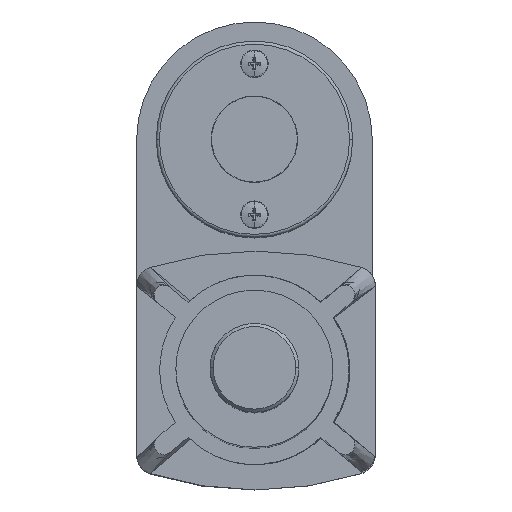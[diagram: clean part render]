
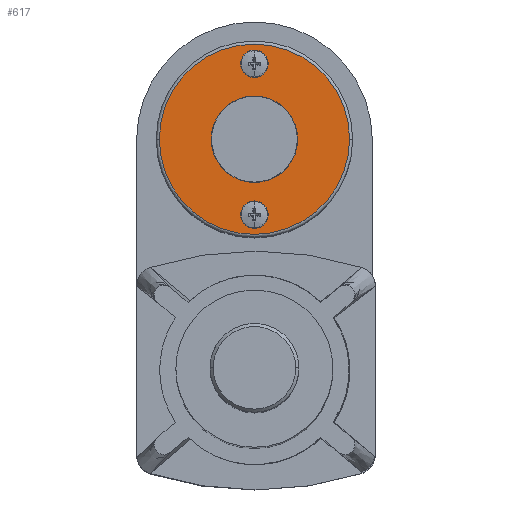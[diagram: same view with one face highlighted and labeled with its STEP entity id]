
A CAD part, top view. The second image highlights one B-rep face of the part: STEP entity #617.
In plain terms, the highlighted planar face has unit normal (0, 0, 1).
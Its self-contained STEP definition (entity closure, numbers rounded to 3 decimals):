
#617 = ADVANCED_FACE ( 'NONE', ( #1950, #8366, #7803 ), #3548, .T. ) ;
#931 = ORIENTED_EDGE ( 'NONE', *, *, #5940, .T. ) ;
#933 = DIRECTION ( 'NONE',  ( -1., 0., 0. ) ) ;
#1465 = ORIENTED_EDGE ( 'NONE', *, *, #10584, .F. ) ;
#1950 = FACE_BOUND ( 'NONE', #4600, .T. ) ;
#1993 = CIRCLE ( 'NONE', #9650, 30.75 ) ;
#2206 = ORIENTED_EDGE ( 'NONE', *, *, #5469, .T. ) ;
#2408 = VERTEX_POINT ( 'NONE', #8805 ) ;
#2779 = DIRECTION ( 'NONE',  ( -1., 0., 0. ) ) ;
#2851 = DIRECTION ( 'NONE',  ( 0., 0., 1. ) ) ;
#3004 = CARTESIAN_POINT ( 'NONE',  ( 38.608, -7.238, 406.098 ) ) ;
#3057 = VERTEX_POINT ( 'NONE', #6842 ) ;
#3548 = PLANE ( 'NONE',  #3857 ) ;
#3591 = DIRECTION ( 'NONE',  ( 0., 0., 1. ) ) ;
#3691 = CIRCLE ( 'NONE', #6625, 2.54 ) ;
#3703 = AXIS2_PLACEMENT_3D ( 'NONE', #4230, #5136, #6020 ) ;
#3857 = AXIS2_PLACEMENT_3D ( 'NONE', #8056, #5414, #5339 ) ;
#4230 = CARTESIAN_POINT ( 'NONE',  ( 38.608, -56.038, 406.098 ) ) ;
#4417 = EDGE_LOOP ( 'NONE', ( #931, #2206 ) ) ;
#4600 = EDGE_LOOP ( 'NONE', ( #1465, #10335 ) ) ;
#4645 = CARTESIAN_POINT ( 'NONE',  ( 38.608, -31.638, 406.098 ) ) ;
#4903 = VERTEX_POINT ( 'NONE', #11179 ) ;
#5008 = DIRECTION ( 'NONE',  ( 0., 0., 1. ) ) ;
#5046 = CIRCLE ( 'NONE', #5320, 30.75 ) ;
#5047 = DIRECTION ( 'NONE',  ( -1., 0., 0. ) ) ;
#5132 = VERTEX_POINT ( 'NONE', #8432 ) ;
#5136 = DIRECTION ( 'NONE',  ( 0., 0., 1. ) ) ;
#5153 = CARTESIAN_POINT ( 'NONE',  ( 41.148, -56.038, 406.098 ) ) ;
#5289 = EDGE_CURVE ( 'NONE', #4903, #3057, #10471, .T. ) ;
#5320 = AXIS2_PLACEMENT_3D ( 'NONE', #6691, #5008, #5047 ) ;
#5339 = DIRECTION ( 'NONE',  ( -1., 0., 0. ) ) ;
#5414 = DIRECTION ( 'NONE',  ( 0., 0., 1. ) ) ;
#5416 = ORIENTED_EDGE ( 'NONE', *, *, #7988, .F. ) ;
#5469 = EDGE_CURVE ( 'NONE', #5132, #2408, #1993, .T. ) ;
#5940 = EDGE_CURVE ( 'NONE', #2408, #5132, #5046, .T. ) ;
#6020 = DIRECTION ( 'NONE',  ( -1., 0., 0. ) ) ;
#6625 = AXIS2_PLACEMENT_3D ( 'NONE', #9023, #8975, #2779 ) ;
#6636 = CARTESIAN_POINT ( 'NONE',  ( 36.068, -56.038, 406.098 ) ) ;
#6691 = CARTESIAN_POINT ( 'NONE',  ( 38.608, -31.638, 406.098 ) ) ;
#6842 = CARTESIAN_POINT ( 'NONE',  ( 41.148, -7.238, 406.098 ) ) ;
#6869 = AXIS2_PLACEMENT_3D ( 'NONE', #7032, #3591, #933 ) ;
#6903 = VERTEX_POINT ( 'NONE', #5153 ) ;
#7032 = CARTESIAN_POINT ( 'NONE',  ( 38.608, -7.238, 406.098 ) ) ;
#7343 = DIRECTION ( 'NONE',  ( 0., 0., 1. ) ) ;
#7677 = CIRCLE ( 'NONE', #7997, 2.54 ) ;
#7803 = FACE_OUTER_BOUND ( 'NONE', #4417, .T. ) ;
#7988 = EDGE_CURVE ( 'NONE', #3057, #4903, #7677, .T. ) ;
#7997 = AXIS2_PLACEMENT_3D ( 'NONE', #3004, #7343, #8996 ) ;
#8036 = DIRECTION ( 'NONE',  ( -1., 0., 0. ) ) ;
#8056 = CARTESIAN_POINT ( 'NONE',  ( 38.608, -31.638, 406.098 ) ) ;
#8286 = EDGE_CURVE ( 'NONE', #6903, #10394, #3691, .T. ) ;
#8366 = FACE_BOUND ( 'NONE', #11327, .T. ) ;
#8432 = CARTESIAN_POINT ( 'NONE',  ( 69.358, -31.638, 406.098 ) ) ;
#8450 = CIRCLE ( 'NONE', #3703, 2.54 ) ;
#8731 = ORIENTED_EDGE ( 'NONE', *, *, #5289, .F. ) ;
#8805 = CARTESIAN_POINT ( 'NONE',  ( 7.858, -31.638, 406.098 ) ) ;
#8975 = DIRECTION ( 'NONE',  ( 0., 0., 1. ) ) ;
#8996 = DIRECTION ( 'NONE',  ( -1., 0., 0. ) ) ;
#9023 = CARTESIAN_POINT ( 'NONE',  ( 38.608, -56.038, 406.098 ) ) ;
#9650 = AXIS2_PLACEMENT_3D ( 'NONE', #4645, #2851, #8036 ) ;
#10335 = ORIENTED_EDGE ( 'NONE', *, *, #8286, .F. ) ;
#10394 = VERTEX_POINT ( 'NONE', #6636 ) ;
#10471 = CIRCLE ( 'NONE', #6869, 2.54 ) ;
#10584 = EDGE_CURVE ( 'NONE', #10394, #6903, #8450, .T. ) ;
#11179 = CARTESIAN_POINT ( 'NONE',  ( 36.068, -7.238, 406.098 ) ) ;
#11327 = EDGE_LOOP ( 'NONE', ( #8731, #5416 ) ) ;
